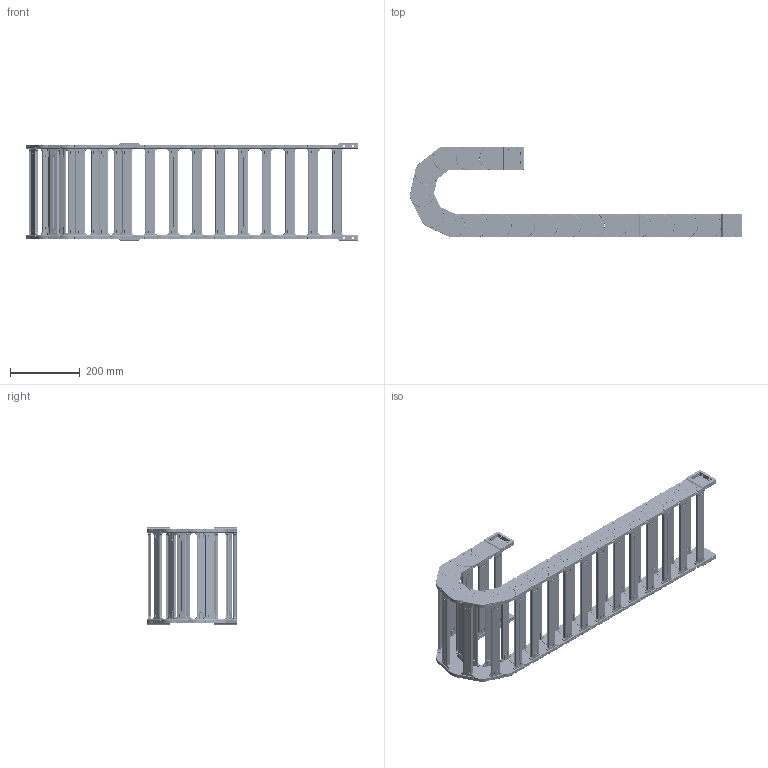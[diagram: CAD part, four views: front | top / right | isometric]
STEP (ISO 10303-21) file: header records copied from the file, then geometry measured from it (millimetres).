
FILE_DESCRIPTION (( 'STEP AP214' ), '1' );
FILE_NAME ('J45Q.1.250S-3D賦凳芞.STEP', '2019-01-10T00:15:52', ( 'Sky123.Org' ), ( 'Sky123.Org' ), 'SwSTEP 2.0', 'SolidWorks 2017', '' );
FILE_SCHEMA (( 'AUTOMOTIVE_DESIGN' ));
Length unit declared in the file: millimetre
Products named in the file (10): 45-N源諉芛俋; 5-N45X75-源諉囀; 45-臏簽1; 45-N源諉芛囀; 5-N45X100-1; J45.1結え; 45-崝Ч翋极2; 45-崝Ч翋极1-R250; J45Q.1.250S-3D賦凳芞; 5-N45X75-源諉俋
Assembly tree (55 placements, depth 3):
  J45Q.1.250S-3D賦凳芞
    5-N45X100-1  x17
      45-崝Ч翋极1-R250
      45-崝Ч翋极2
      J45.1結え
    5-N45X75-源諉囀
      45-N源諉芛囀  x2
      J45.1結え  x2
      45-臏簽1  x12
    5-N45X75-源諉俋
      45-N源諉芛俋  x2
      J45.1結え  x2
      45-臏簽1  x12
Bounding box: 954.91 x 261 x 279 mm (x, y, z)
Volume: 4002073.5 mm3; surface area: 1575270.1 mm2
Topology: 100 solids, 100 shells, 20080 faces, 51658 edges, 31520 vertices
Faces by surface type: plane 7348, cylinder 6440, bspline 3788, torus 1508, sphere 768, cone 228
Entity records: 33152 total; most frequent: CARTESIAN_POINT 10875, ORIENTED_EDGE 4608, DIRECTION 4494, EDGE_CURVE 2304, AXIS2_PLACEMENT_3D 1615, VERTEX_POINT 1438, VECTOR 1264, LINE 1264
